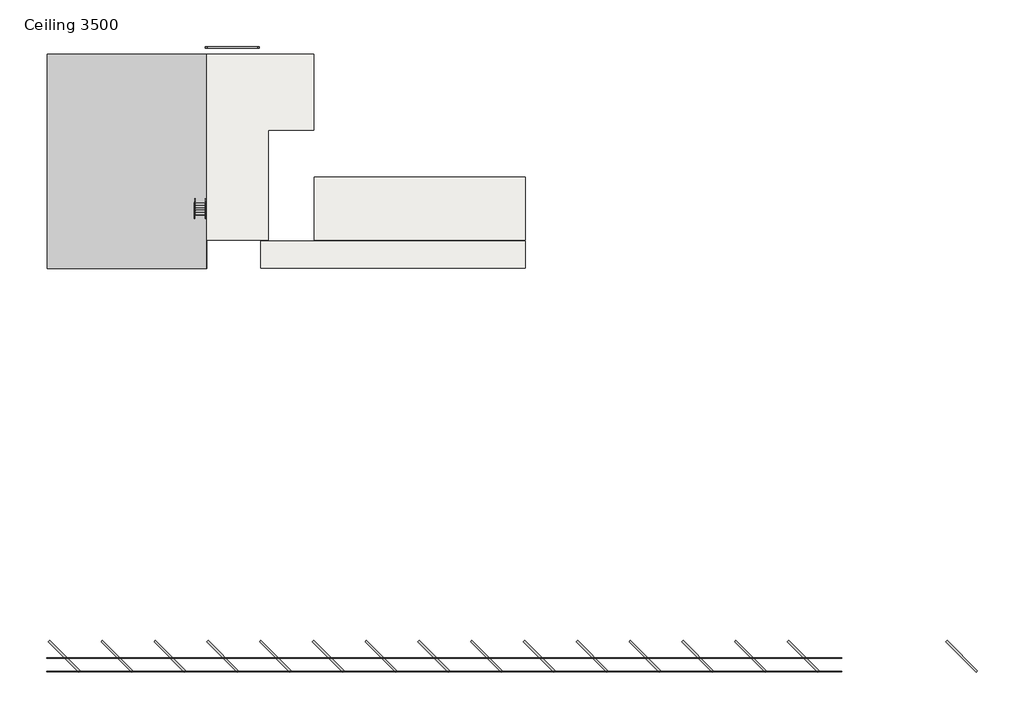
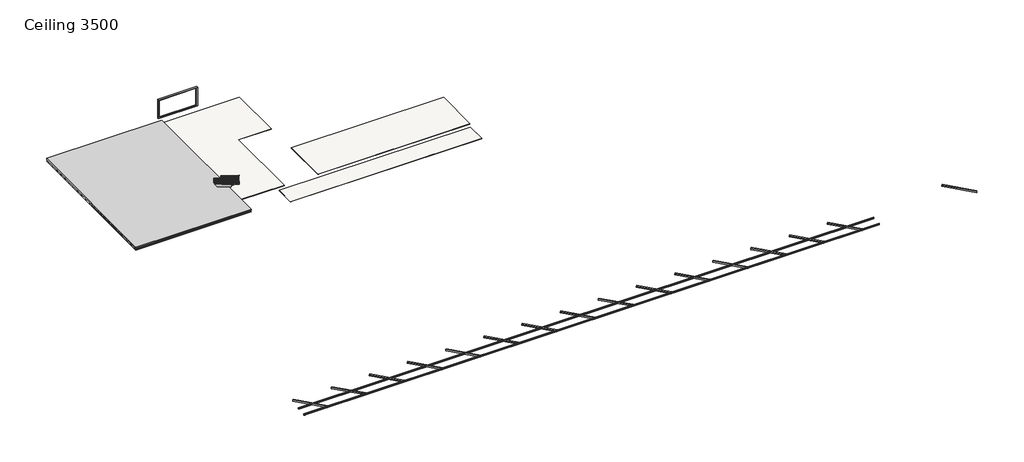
# One storey: 5 proxies, 2 members, 2 railings, 2 slabs, 1 stair flight.
"""IFC4 building model written with IfcOpenShell, lengths in millimetres."""

from ifc_helpers import new_model, si_unit, frame, origin, place, context, project, spatial, polyline, outline, extrude, transform, mapped, element, save
from components import generic_models_16_generic_models_16_e3d580b3, generic_models_22_generic_models_5_a0ad3e2a, generic_models_23_generic_models_23_01d6a3c4, generic_models_68_generic_models_68_cb7e43ab, stair_flight_50mm_tread_13mm_riser_d4d06f7f

model = new_model("IFC4")

# Units and contexts
model_context = context("Model", 3, world=origin())
ifc_project = project(units=[si_unit("LENGTHUNIT", "METRE", prefix="MILLI")], contexts=[model_context])

# Site, building, storey
site = spatial("IfcSite", under=ifc_project)
building = spatial("IfcBuilding", under=site)
storey = spatial("IfcBuildingStorey", under=building, Name="Ceiling 3500", Elevation=47670.0)

# Proxies
placement = place(None, origin())
generic_models_16_generic_models_16_shape = generic_models_16_generic_models_16_e3d580b3(model_context)
element("IfcBuildingElementProxy", 1, Name="Generic Models 16 : Generic Models 16", ObjectType="Generic Models 16 : Generic Models 16", at=placement, inside=storey, context=model_context, shape_type="MappedRepresentation", body=[
    mapped(generic_models_16_generic_models_16_shape, transform((0.0, 0.0, 0.0), x_axis=(1.0, 0.0, 0.0), y_axis=(0.0, 1.0, 0.0), z_axis=(0.0, 0.0, 1.0))),
])
generic_models_22_generic_models_5_shape = generic_models_22_generic_models_5_a0ad3e2a(model_context)
element("IfcBuildingElementProxy", 2, Name="Generic Models 22 : Generic Models 5", ObjectType="Generic Models 22 : Generic Models 5", at=placement, inside=storey, context=model_context, shape_type="MappedRepresentation", body=[
    mapped(generic_models_22_generic_models_5_shape, transform((0.0, 0.0, 0.0), x_axis=(1.0, 0.0, 0.0), y_axis=(0.0, 1.0, 0.0), z_axis=(0.0, 0.0, 1.0))),
])
generic_models_23_generic_models_23_shape = generic_models_23_generic_models_23_01d6a3c4(model_context)
element("IfcBuildingElementProxy", 3, Name="Generic Models 23 : Generic Models 23", ObjectType="Generic Models 23 : Generic Models 23", at=placement, inside=storey, context=model_context, shape_type="MappedRepresentation", body=[
    mapped(generic_models_23_generic_models_23_shape, transform((0.0, 0.0, 0.0), x_axis=(1.0, 0.0, 0.0), y_axis=(0.0, 1.0, 0.0), z_axis=(0.0, 0.0, 1.0))),
])
element("IfcBuildingElementProxy", 4, Name="Generic Models 29 : Generic Models 5", ObjectType="Generic Models 29 : Generic Models 5", at=placement, inside=storey, context=model_context, shape_type="MappedRepresentation", body=[
    mapped(generic_models_22_generic_models_5_shape, transform((0.0, 1537.9249012, 79.9186981), x_axis=(1.0, 0.0, 0.0), y_axis=(0.0, 1.0, 0.0), z_axis=(0.0, 0.0, 1.0))),
])
generic_models_68_generic_models_68_shape = generic_models_68_generic_models_68_cb7e43ab(model_context)
element("IfcBuildingElementProxy", 5, Name="Generic Models 68 : Generic Models 68", ObjectType="Generic Models 68 : Generic Models 68", at=placement, inside=storey, context=model_context, shape_type="MappedRepresentation", body=[
    mapped(generic_models_68_generic_models_68_shape, transform((0.0, 0.0, 0.0), x_axis=(1.0, 0.0, 0.0), y_axis=(0.0, 1.0, 0.0), z_axis=(0.0, 0.0, 1.0))),
])

# Members
element("IfcMember", 6, ObjectType="Stringer - 50mm Width", at=placement, inside=storey, context=model_context, shape_type="SweptSolid", body=[
    extrude(outline(polyline([(19967.4703267, 47906.4454932), (19967.4703267, 47670.0), (19589.8334915, 47670.0), (15107.4703267, 50450.7252967), (15107.4703267, 50921.4454932), (19967.4703267, 47906.4454932)])), frame((-117250.5917799, 0.0, 0.0), z_axis=(1.0, 0.0, 0.0), x_axis=(0.0, 1.0, 0.0)), (0.0, 0.0, 1.0), 50.0),
])
element("IfcMember", 7, ObjectType="Stringer - 50mm Width", at=placement, inside=storey, context=model_context, shape_type="SweptSolid", body=[
    extrude(outline(polyline([(19967.4703267, 47906.4454932), (19967.4703267, 47670.0), (19589.8334915, 47670.0), (15107.4703267, 50450.7252967), (15107.4703267, 50921.4454932), (19967.4703267, 47906.4454932)])), frame((-118500.5917799, 0.0, 0.0), z_axis=(1.0, 0.0, 0.0), x_axis=(0.0, 1.0, 0.0)), (0.0, 0.0, 1.0), 50.0),
])

# Railings
element("IfcRailing", 8, ObjectType="1100mm", at=placement, inside=storey, context=model_context, shape_type="SweptSolid", body=[
    extrude(outline(polyline([(19967.4703267, 48937.5), (19967.4703267, 48878.6599754), (15107.4703267, 51893.6599754), (15107.4703267, 51952.5), (19967.4703267, 48937.5)])), frame((-118450.1917799, 0.0, 0.0), z_axis=(1.0, 0.0, 0.0), x_axis=(0.0, 1.0, 0.0)), (0.0, 0.0, 1.0), 50.0),
    extrude(outline(polyline([(15187.4703267, 51844.0303458), (15187.4703267, 50685.0), (15162.4703267, 50685.0), (15162.4703267, 51859.5396051), (15187.4703267, 51844.0303458)])), frame((-118437.6917799, 0.0, 0.0), z_axis=(1.0, 0.0, 0.0), x_axis=(0.0, 1.0, 0.0)), (0.0, 0.0, 1.0), 25.0),
    extrude(outline(polyline([(15322.4703267, 51760.2803458), (15322.4703267, 50685.0), (15297.4703267, 50685.0), (15297.4703267, 51775.7896051), (15322.4703267, 51760.2803458)])), frame((-118437.6917799, 0.0, 0.0), z_axis=(1.0, 0.0, 0.0), x_axis=(0.0, 1.0, 0.0)), (0.0, 0.0, 1.0), 25.0),
    extrude(outline(polyline([(15457.4703267, 51676.5303458), (15457.4703267, 50517.5), (15432.4703267, 50517.5), (15432.4703267, 51692.0396051), (15457.4703267, 51676.5303458)])), frame((-118437.6917799, 0.0, 0.0), z_axis=(1.0, 0.0, 0.0), x_axis=(0.0, 1.0, 0.0)), (0.0, 0.0, 1.0), 25.0),
    extrude(outline(polyline([(15592.4703267, 51592.7803458), (15592.4703267, 50517.5), (15567.4703267, 50517.5), (15567.4703267, 51608.2896051), (15592.4703267, 51592.7803458)])), frame((-118437.6917799, 0.0, 0.0), z_axis=(1.0, 0.0, 0.0), x_axis=(0.0, 1.0, 0.0)), (0.0, 0.0, 1.0), 25.0),
    extrude(outline(polyline([(15727.4703267, 51509.0303458), (15727.4703267, 50350.0), (15702.4703267, 50350.0), (15702.4703267, 51524.5396051), (15727.4703267, 51509.0303458)])), frame((-118437.6917799, 0.0, 0.0), z_axis=(1.0, 0.0, 0.0), x_axis=(0.0, 1.0, 0.0)), (0.0, 0.0, 1.0), 25.0),
    extrude(outline(polyline([(15862.4703267, 51425.2803458), (15862.4703267, 50350.0), (15837.4703267, 50350.0), (15837.4703267, 51440.7896051), (15862.4703267, 51425.2803458)])), frame((-118437.6917799, 0.0, 0.0), z_axis=(1.0, 0.0, 0.0), x_axis=(0.0, 1.0, 0.0)), (0.0, 0.0, 1.0), 25.0),
    extrude(outline(polyline([(15997.4703267, 51341.5303458), (15997.4703267, 50182.5), (15972.4703267, 50182.5), (15972.4703267, 51357.0396051), (15997.4703267, 51341.5303458)])), frame((-118437.6917799, 0.0, 0.0), z_axis=(1.0, 0.0, 0.0), x_axis=(0.0, 1.0, 0.0)), (0.0, 0.0, 1.0), 25.0),
    extrude(outline(polyline([(16132.4703267, 51257.7803458), (16132.4703267, 50182.5), (16107.4703267, 50182.5), (16107.4703267, 51273.2896051), (16132.4703267, 51257.7803458)])), frame((-118437.6917799, 0.0, 0.0), z_axis=(1.0, 0.0, 0.0), x_axis=(0.0, 1.0, 0.0)), (0.0, 0.0, 1.0), 25.0),
    extrude(outline(polyline([(16267.4703267, 51174.0303458), (16267.4703267, 50015.0), (16242.4703267, 50015.0), (16242.4703267, 51189.5396051), (16267.4703267, 51174.0303458)])), frame((-118437.6917799, 0.0, 0.0), z_axis=(1.0, 0.0, 0.0), x_axis=(0.0, 1.0, 0.0)), (0.0, 0.0, 1.0), 25.0),
    extrude(outline(polyline([(16402.4703267, 51090.2803458), (16402.4703267, 50015.0), (16377.4703267, 50015.0), (16377.4703267, 51105.7896051), (16402.4703267, 51090.2803458)])), frame((-118437.6917799, 0.0, 0.0), z_axis=(1.0, 0.0, 0.0), x_axis=(0.0, 1.0, 0.0)), (0.0, 0.0, 1.0), 25.0),
    extrude(outline(polyline([(16537.4703267, 51006.5303458), (16537.4703267, 49847.5), (16512.4703267, 49847.5), (16512.4703267, 51022.0396051), (16537.4703267, 51006.5303458)])), frame((-118437.6917799, 0.0, 0.0), z_axis=(1.0, 0.0, 0.0), x_axis=(0.0, 1.0, 0.0)), (0.0, 0.0, 1.0), 25.0),
    extrude(outline(polyline([(16672.4703267, 50922.7803458), (16672.4703267, 49847.5), (16647.4703267, 49847.5), (16647.4703267, 50938.2896051), (16672.4703267, 50922.7803458)])), frame((-118437.6917799, 0.0, 0.0), z_axis=(1.0, 0.0, 0.0), x_axis=(0.0, 1.0, 0.0)), (0.0, 0.0, 1.0), 25.0),
    extrude(outline(polyline([(16807.4703267, 50839.0303458), (16807.4703267, 49680.0), (16782.4703267, 49680.0), (16782.4703267, 50854.5396051), (16807.4703267, 50839.0303458)])), frame((-118437.6917799, 0.0, 0.0), z_axis=(1.0, 0.0, 0.0), x_axis=(0.0, 1.0, 0.0)), (0.0, 0.0, 1.0), 25.0),
    extrude(outline(polyline([(16942.4703267, 50755.2803458), (16942.4703267, 49680.0), (16917.4703267, 49680.0), (16917.4703267, 50770.7896051), (16942.4703267, 50755.2803458)])), frame((-118437.6917799, 0.0, 0.0), z_axis=(1.0, 0.0, 0.0), x_axis=(0.0, 1.0, 0.0)), (0.0, 0.0, 1.0), 25.0),
    extrude(outline(polyline([(17077.4703267, 50671.5303458), (17077.4703267, 49512.5), (17052.4703267, 49512.5), (17052.4703267, 50687.0396051), (17077.4703267, 50671.5303458)])), frame((-118437.6917799, 0.0, 0.0), z_axis=(1.0, 0.0, 0.0), x_axis=(0.0, 1.0, 0.0)), (0.0, 0.0, 1.0), 25.0),
    extrude(outline(polyline([(17212.4703267, 50587.7803458), (17212.4703267, 49512.5), (17187.4703267, 49512.5), (17187.4703267, 50603.2896051), (17212.4703267, 50587.7803458)])), frame((-118437.6917799, 0.0, 0.0), z_axis=(1.0, 0.0, 0.0), x_axis=(0.0, 1.0, 0.0)), (0.0, 0.0, 1.0), 25.0),
    extrude(outline(polyline([(17347.4703267, 50504.0303458), (17347.4703267, 49345.0), (17322.4703267, 49345.0), (17322.4703267, 50519.5396051), (17347.4703267, 50504.0303458)])), frame((-118437.6917799, 0.0, 0.0), z_axis=(1.0, 0.0, 0.0), x_axis=(0.0, 1.0, 0.0)), (0.0, 0.0, 1.0), 25.0),
    extrude(outline(polyline([(17482.4703267, 50420.2803458), (17482.4703267, 49345.0), (17457.4703267, 49345.0), (17457.4703267, 50435.7896051), (17482.4703267, 50420.2803458)])), frame((-118437.6917799, 0.0, 0.0), z_axis=(1.0, 0.0, 0.0), x_axis=(0.0, 1.0, 0.0)), (0.0, 0.0, 1.0), 25.0),
    extrude(outline(polyline([(17617.4703267, 50336.5303458), (17617.4703267, 49177.5), (17592.4703267, 49177.5), (17592.4703267, 50352.0396051), (17617.4703267, 50336.5303458)])), frame((-118437.6917799, 0.0, 0.0), z_axis=(1.0, 0.0, 0.0), x_axis=(0.0, 1.0, 0.0)), (0.0, 0.0, 1.0), 25.0),
    extrude(outline(polyline([(17752.4703267, 50252.7803458), (17752.4703267, 49177.5), (17727.4703267, 49177.5), (17727.4703267, 50268.2896051), (17752.4703267, 50252.7803458)])), frame((-118437.6917799, 0.0, 0.0), z_axis=(1.0, 0.0, 0.0), x_axis=(0.0, 1.0, 0.0)), (0.0, 0.0, 1.0), 25.0),
    extrude(outline(polyline([(17887.4703267, 50169.0303458), (17887.4703267, 49010.0), (17862.4703267, 49010.0), (17862.4703267, 50184.5396051), (17887.4703267, 50169.0303458)])), frame((-118437.6917799, 0.0, 0.0), z_axis=(1.0, 0.0, 0.0), x_axis=(0.0, 1.0, 0.0)), (0.0, 0.0, 1.0), 25.0),
    extrude(outline(polyline([(18022.4703267, 50085.2803458), (18022.4703267, 49010.0), (17997.4703267, 49010.0), (17997.4703267, 50100.7896051), (18022.4703267, 50085.2803458)])), frame((-118437.6917799, 0.0, 0.0), z_axis=(1.0, 0.0, 0.0), x_axis=(0.0, 1.0, 0.0)), (0.0, 0.0, 1.0), 25.0),
    extrude(outline(polyline([(18157.4703267, 50001.5303458), (18157.4703267, 48842.5), (18132.4703267, 48842.5), (18132.4703267, 50017.0396051), (18157.4703267, 50001.5303458)])), frame((-118437.6917799, 0.0, 0.0), z_axis=(1.0, 0.0, 0.0), x_axis=(0.0, 1.0, 0.0)), (0.0, 0.0, 1.0), 25.0),
    extrude(outline(polyline([(18292.4703267, 49917.7803458), (18292.4703267, 48842.5), (18267.4703267, 48842.5), (18267.4703267, 49933.2896051), (18292.4703267, 49917.7803458)])), frame((-118437.6917799, 0.0, 0.0), z_axis=(1.0, 0.0, 0.0), x_axis=(0.0, 1.0, 0.0)), (0.0, 0.0, 1.0), 25.0),
    extrude(outline(polyline([(18427.4703267, 49834.0303458), (18427.4703267, 48675.0), (18402.4703267, 48675.0), (18402.4703267, 49849.5396051), (18427.4703267, 49834.0303458)])), frame((-118437.6917799, 0.0, 0.0), z_axis=(1.0, 0.0, 0.0), x_axis=(0.0, 1.0, 0.0)), (0.0, 0.0, 1.0), 25.0),
    extrude(outline(polyline([(18562.4703267, 49750.2803458), (18562.4703267, 48675.0), (18537.4703267, 48675.0), (18537.4703267, 49765.7896051), (18562.4703267, 49750.2803458)])), frame((-118437.6917799, 0.0, 0.0), z_axis=(1.0, 0.0, 0.0), x_axis=(0.0, 1.0, 0.0)), (0.0, 0.0, 1.0), 25.0),
    extrude(outline(polyline([(18697.4703267, 49666.5303458), (18697.4703267, 48507.5), (18672.4703267, 48507.5), (18672.4703267, 49682.0396051), (18697.4703267, 49666.5303458)])), frame((-118437.6917799, 0.0, 0.0), z_axis=(1.0, 0.0, 0.0), x_axis=(0.0, 1.0, 0.0)), (0.0, 0.0, 1.0), 25.0),
    extrude(outline(polyline([(18832.4703267, 49582.7803458), (18832.4703267, 48507.5), (18807.4703267, 48507.5), (18807.4703267, 49598.2896051), (18832.4703267, 49582.7803458)])), frame((-118437.6917799, 0.0, 0.0), z_axis=(1.0, 0.0, 0.0), x_axis=(0.0, 1.0, 0.0)), (0.0, 0.0, 1.0), 25.0),
    extrude(outline(polyline([(18967.4703267, 49499.0303458), (18967.4703267, 48340.0), (18942.4703267, 48340.0), (18942.4703267, 49514.5396051), (18967.4703267, 49499.0303458)])), frame((-118437.6917799, 0.0, 0.0), z_axis=(1.0, 0.0, 0.0), x_axis=(0.0, 1.0, 0.0)), (0.0, 0.0, 1.0), 25.0),
    extrude(outline(polyline([(19102.4703267, 49415.2803458), (19102.4703267, 48340.0), (19077.4703267, 48340.0), (19077.4703267, 49430.7896051), (19102.4703267, 49415.2803458)])), frame((-118437.6917799, 0.0, 0.0), z_axis=(1.0, 0.0, 0.0), x_axis=(0.0, 1.0, 0.0)), (0.0, 0.0, 1.0), 25.0),
    extrude(outline(polyline([(19237.4703267, 49331.5303458), (19237.4703267, 48172.5), (19212.4703267, 48172.5), (19212.4703267, 49347.0396051), (19237.4703267, 49331.5303458)])), frame((-118437.6917799, 0.0, 0.0), z_axis=(1.0, 0.0, 0.0), x_axis=(0.0, 1.0, 0.0)), (0.0, 0.0, 1.0), 25.0),
    extrude(outline(polyline([(19372.4703267, 49247.7803458), (19372.4703267, 48172.5), (19347.4703267, 48172.5), (19347.4703267, 49263.2896051), (19372.4703267, 49247.7803458)])), frame((-118437.6917799, 0.0, 0.0), z_axis=(1.0, 0.0, 0.0), x_axis=(0.0, 1.0, 0.0)), (0.0, 0.0, 1.0), 25.0),
    extrude(outline(polyline([(19507.4703267, 49164.0303458), (19507.4703267, 48005.0), (19482.4703267, 48005.0), (19482.4703267, 49179.5396051), (19507.4703267, 49164.0303458)])), frame((-118437.6917799, 0.0, 0.0), z_axis=(1.0, 0.0, 0.0), x_axis=(0.0, 1.0, 0.0)), (0.0, 0.0, 1.0), 25.0),
    extrude(outline(polyline([(19642.4703267, 49080.2803458), (19642.4703267, 48005.0), (19617.4703267, 48005.0), (19617.4703267, 49095.7896051), (19642.4703267, 49080.2803458)])), frame((-118437.6917799, 0.0, 0.0), z_axis=(1.0, 0.0, 0.0), x_axis=(0.0, 1.0, 0.0)), (0.0, 0.0, 1.0), 25.0),
    extrude(outline(polyline([(19777.4703267, 48996.5303458), (19777.4703267, 47837.5), (19752.4703267, 47837.5), (19752.4703267, 49012.0396051), (19777.4703267, 48996.5303458)])), frame((-118437.6917799, 0.0, 0.0), z_axis=(1.0, 0.0, 0.0), x_axis=(0.0, 1.0, 0.0)), (0.0, 0.0, 1.0), 25.0),
    extrude(outline(polyline([(19912.4703267, 48912.7803458), (19912.4703267, 47837.5), (19887.4703267, 47837.5), (19887.4703267, 48928.2896051), (19912.4703267, 48912.7803458)])), frame((-118437.6917799, 0.0, 0.0), z_axis=(1.0, 0.0, 0.0), x_axis=(0.0, 1.0, 0.0)), (0.0, 0.0, 1.0), 25.0),
    extrude(outline(polyline([(15132.4703267, 51878.1507162), (15132.4703267, 50685.0), (15107.4703267, 50685.0), (15107.4703267, 51893.6599754), (15132.4703267, 51878.1507162)])), frame((-118437.6917799, 0.0, 0.0), z_axis=(1.0, 0.0, 0.0), x_axis=(0.0, 1.0, 0.0)), (0.0, 0.0, 1.0), 25.0),
    extrude(outline(polyline([(19967.4703267, 48878.6599754), (19967.4703267, 47837.5), (19942.4703267, 47837.5), (19942.4703267, 48894.1692347), (19967.4703267, 48878.6599754)])), frame((-118437.6917799, 0.0, 0.0), z_axis=(1.0, 0.0, 0.0), x_axis=(0.0, 1.0, 0.0)), (0.0, 0.0, 1.0), 25.0),
])
element("IfcRailing", 9, ObjectType="1100mm", at=placement, inside=storey, context=model_context, shape_type="SweptSolid", body=[
    extrude(outline(polyline([(19967.4703267, 48937.5), (19967.4703267, 48878.6599754), (15107.4703267, 51893.6599754), (15107.4703267, 51952.5), (19967.4703267, 48937.5)])), frame((-117300.9917799, 0.0, 0.0), z_axis=(1.0, 0.0, 0.0), x_axis=(0.0, 1.0, 0.0)), (0.0, 0.0, 1.0), 50.0),
    extrude(outline(polyline([(15187.4703267, 50685.0), (15162.4703267, 50685.0), (15162.4703267, 51859.5396051), (15187.4703267, 51844.0303458), (15187.4703267, 50685.0)])), frame((-117288.4917799, 0.0, 0.0), z_axis=(1.0, 0.0, 0.0), x_axis=(0.0, 1.0, 0.0)), (0.0, 0.0, 1.0), 25.0),
    extrude(outline(polyline([(15322.4703267, 50685.0), (15297.4703267, 50685.0), (15297.4703267, 51775.7896051), (15322.4703267, 51760.2803458), (15322.4703267, 50685.0)])), frame((-117288.4917799, 0.0, 0.0), z_axis=(1.0, 0.0, 0.0), x_axis=(0.0, 1.0, 0.0)), (0.0, 0.0, 1.0), 25.0),
    extrude(outline(polyline([(15457.4703267, 50517.5), (15432.4703267, 50517.5), (15432.4703267, 51692.0396051), (15457.4703267, 51676.5303458), (15457.4703267, 50517.5)])), frame((-117288.4917799, 0.0, 0.0), z_axis=(1.0, 0.0, 0.0), x_axis=(0.0, 1.0, 0.0)), (0.0, 0.0, 1.0), 25.0),
    extrude(outline(polyline([(15592.4703267, 50517.5), (15567.4703267, 50517.5), (15567.4703267, 51608.2896051), (15592.4703267, 51592.7803458), (15592.4703267, 50517.5)])), frame((-117288.4917799, 0.0, 0.0), z_axis=(1.0, 0.0, 0.0), x_axis=(0.0, 1.0, 0.0)), (0.0, 0.0, 1.0), 25.0),
    extrude(outline(polyline([(15727.4703267, 50350.0), (15702.4703267, 50350.0), (15702.4703267, 51524.5396051), (15727.4703267, 51509.0303458), (15727.4703267, 50350.0)])), frame((-117288.4917799, 0.0, 0.0), z_axis=(1.0, 0.0, 0.0), x_axis=(0.0, 1.0, 0.0)), (0.0, 0.0, 1.0), 25.0),
    extrude(outline(polyline([(15862.4703267, 50350.0), (15837.4703267, 50350.0), (15837.4703267, 51440.7896051), (15862.4703267, 51425.2803458), (15862.4703267, 50350.0)])), frame((-117288.4917799, 0.0, 0.0), z_axis=(1.0, 0.0, 0.0), x_axis=(0.0, 1.0, 0.0)), (0.0, 0.0, 1.0), 25.0),
    extrude(outline(polyline([(15997.4703267, 50182.5), (15972.4703267, 50182.5), (15972.4703267, 51357.0396051), (15997.4703267, 51341.5303458), (15997.4703267, 50182.5)])), frame((-117288.4917799, 0.0, 0.0), z_axis=(1.0, 0.0, 0.0), x_axis=(0.0, 1.0, 0.0)), (0.0, 0.0, 1.0), 25.0),
    extrude(outline(polyline([(16132.4703267, 50182.5), (16107.4703267, 50182.5), (16107.4703267, 51273.2896051), (16132.4703267, 51257.7803458), (16132.4703267, 50182.5)])), frame((-117288.4917799, 0.0, 0.0), z_axis=(1.0, 0.0, 0.0), x_axis=(0.0, 1.0, 0.0)), (0.0, 0.0, 1.0), 25.0),
    extrude(outline(polyline([(16267.4703267, 50015.0), (16242.4703267, 50015.0), (16242.4703267, 51189.5396051), (16267.4703267, 51174.0303458), (16267.4703267, 50015.0)])), frame((-117288.4917799, 0.0, 0.0), z_axis=(1.0, 0.0, 0.0), x_axis=(0.0, 1.0, 0.0)), (0.0, 0.0, 1.0), 25.0),
    extrude(outline(polyline([(16402.4703267, 50015.0), (16377.4703267, 50015.0), (16377.4703267, 51105.7896051), (16402.4703267, 51090.2803458), (16402.4703267, 50015.0)])), frame((-117288.4917799, 0.0, 0.0), z_axis=(1.0, 0.0, 0.0), x_axis=(0.0, 1.0, 0.0)), (0.0, 0.0, 1.0), 25.0),
    extrude(outline(polyline([(16537.4703267, 49847.5), (16512.4703267, 49847.5), (16512.4703267, 51022.0396051), (16537.4703267, 51006.5303458), (16537.4703267, 49847.5)])), frame((-117288.4917799, 0.0, 0.0), z_axis=(1.0, 0.0, 0.0), x_axis=(0.0, 1.0, 0.0)), (0.0, 0.0, 1.0), 25.0),
    extrude(outline(polyline([(16672.4703267, 49847.5), (16647.4703267, 49847.5), (16647.4703267, 50938.2896051), (16672.4703267, 50922.7803458), (16672.4703267, 49847.5)])), frame((-117288.4917799, 0.0, 0.0), z_axis=(1.0, 0.0, 0.0), x_axis=(0.0, 1.0, 0.0)), (0.0, 0.0, 1.0), 25.0),
    extrude(outline(polyline([(16807.4703267, 49680.0), (16782.4703267, 49680.0), (16782.4703267, 50854.5396051), (16807.4703267, 50839.0303458), (16807.4703267, 49680.0)])), frame((-117288.4917799, 0.0, 0.0), z_axis=(1.0, 0.0, 0.0), x_axis=(0.0, 1.0, 0.0)), (0.0, 0.0, 1.0), 25.0),
    extrude(outline(polyline([(16942.4703267, 49680.0), (16917.4703267, 49680.0), (16917.4703267, 50770.7896051), (16942.4703267, 50755.2803458), (16942.4703267, 49680.0)])), frame((-117288.4917799, 0.0, 0.0), z_axis=(1.0, 0.0, 0.0), x_axis=(0.0, 1.0, 0.0)), (0.0, 0.0, 1.0), 25.0),
    extrude(outline(polyline([(17077.4703267, 49512.5), (17052.4703267, 49512.5), (17052.4703267, 50687.0396051), (17077.4703267, 50671.5303458), (17077.4703267, 49512.5)])), frame((-117288.4917799, 0.0, 0.0), z_axis=(1.0, 0.0, 0.0), x_axis=(0.0, 1.0, 0.0)), (0.0, 0.0, 1.0), 25.0),
    extrude(outline(polyline([(17212.4703267, 49512.5), (17187.4703267, 49512.5), (17187.4703267, 50603.2896051), (17212.4703267, 50587.7803458), (17212.4703267, 49512.5)])), frame((-117288.4917799, 0.0, 0.0), z_axis=(1.0, 0.0, 0.0), x_axis=(0.0, 1.0, 0.0)), (0.0, 0.0, 1.0), 25.0),
    extrude(outline(polyline([(17347.4703267, 49345.0), (17322.4703267, 49345.0), (17322.4703267, 50519.5396051), (17347.4703267, 50504.0303458), (17347.4703267, 49345.0)])), frame((-117288.4917799, 0.0, 0.0), z_axis=(1.0, 0.0, 0.0), x_axis=(0.0, 1.0, 0.0)), (0.0, 0.0, 1.0), 25.0),
    extrude(outline(polyline([(17482.4703267, 49345.0), (17457.4703267, 49345.0), (17457.4703267, 50435.7896051), (17482.4703267, 50420.2803458), (17482.4703267, 49345.0)])), frame((-117288.4917799, 0.0, 0.0), z_axis=(1.0, 0.0, 0.0), x_axis=(0.0, 1.0, 0.0)), (0.0, 0.0, 1.0), 25.0),
    extrude(outline(polyline([(17617.4703267, 49177.5), (17592.4703267, 49177.5), (17592.4703267, 50352.0396051), (17617.4703267, 50336.5303458), (17617.4703267, 49177.5)])), frame((-117288.4917799, 0.0, 0.0), z_axis=(1.0, 0.0, 0.0), x_axis=(0.0, 1.0, 0.0)), (0.0, 0.0, 1.0), 25.0),
    extrude(outline(polyline([(17752.4703267, 49177.5), (17727.4703267, 49177.5), (17727.4703267, 50268.2896051), (17752.4703267, 50252.7803458), (17752.4703267, 49177.5)])), frame((-117288.4917799, 0.0, 0.0), z_axis=(1.0, 0.0, 0.0), x_axis=(0.0, 1.0, 0.0)), (0.0, 0.0, 1.0), 25.0),
    extrude(outline(polyline([(17887.4703267, 49010.0), (17862.4703267, 49010.0), (17862.4703267, 50184.5396051), (17887.4703267, 50169.0303458), (17887.4703267, 49010.0)])), frame((-117288.4917799, 0.0, 0.0), z_axis=(1.0, 0.0, 0.0), x_axis=(0.0, 1.0, 0.0)), (0.0, 0.0, 1.0), 25.0),
    extrude(outline(polyline([(18022.4703267, 49010.0), (17997.4703267, 49010.0), (17997.4703267, 50100.7896051), (18022.4703267, 50085.2803458), (18022.4703267, 49010.0)])), frame((-117288.4917799, 0.0, 0.0), z_axis=(1.0, 0.0, 0.0), x_axis=(0.0, 1.0, 0.0)), (0.0, 0.0, 1.0), 25.0),
    extrude(outline(polyline([(18157.4703267, 48842.5), (18132.4703267, 48842.5), (18132.4703267, 50017.0396051), (18157.4703267, 50001.5303458), (18157.4703267, 48842.5)])), frame((-117288.4917799, 0.0, 0.0), z_axis=(1.0, 0.0, 0.0), x_axis=(0.0, 1.0, 0.0)), (0.0, 0.0, 1.0), 25.0),
    extrude(outline(polyline([(18292.4703267, 48842.5), (18267.4703267, 48842.5), (18267.4703267, 49933.2896051), (18292.4703267, 49917.7803458), (18292.4703267, 48842.5)])), frame((-117288.4917799, 0.0, 0.0), z_axis=(1.0, 0.0, 0.0), x_axis=(0.0, 1.0, 0.0)), (0.0, 0.0, 1.0), 25.0),
    extrude(outline(polyline([(18427.4703267, 48675.0), (18402.4703267, 48675.0), (18402.4703267, 49849.5396051), (18427.4703267, 49834.0303458), (18427.4703267, 48675.0)])), frame((-117288.4917799, 0.0, 0.0), z_axis=(1.0, 0.0, 0.0), x_axis=(0.0, 1.0, 0.0)), (0.0, 0.0, 1.0), 25.0),
    extrude(outline(polyline([(18562.4703267, 48675.0), (18537.4703267, 48675.0), (18537.4703267, 49765.7896051), (18562.4703267, 49750.2803458), (18562.4703267, 48675.0)])), frame((-117288.4917799, 0.0, 0.0), z_axis=(1.0, 0.0, 0.0), x_axis=(0.0, 1.0, 0.0)), (0.0, 0.0, 1.0), 25.0),
    extrude(outline(polyline([(18697.4703267, 48507.5), (18672.4703267, 48507.5), (18672.4703267, 49682.0396051), (18697.4703267, 49666.5303458), (18697.4703267, 48507.5)])), frame((-117288.4917799, 0.0, 0.0), z_axis=(1.0, 0.0, 0.0), x_axis=(0.0, 1.0, 0.0)), (0.0, 0.0, 1.0), 25.0),
    extrude(outline(polyline([(18832.4703267, 48507.5), (18807.4703267, 48507.5), (18807.4703267, 49598.2896051), (18832.4703267, 49582.7803458), (18832.4703267, 48507.5)])), frame((-117288.4917799, 0.0, 0.0), z_axis=(1.0, 0.0, 0.0), x_axis=(0.0, 1.0, 0.0)), (0.0, 0.0, 1.0), 25.0),
    extrude(outline(polyline([(18967.4703267, 48340.0), (18942.4703267, 48340.0), (18942.4703267, 49514.5396051), (18967.4703267, 49499.0303458), (18967.4703267, 48340.0)])), frame((-117288.4917799, 0.0, 0.0), z_axis=(1.0, 0.0, 0.0), x_axis=(0.0, 1.0, 0.0)), (0.0, 0.0, 1.0), 25.0),
    extrude(outline(polyline([(19102.4703267, 48340.0), (19077.4703267, 48340.0), (19077.4703267, 49430.7896051), (19102.4703267, 49415.2803458), (19102.4703267, 48340.0)])), frame((-117288.4917799, 0.0, 0.0), z_axis=(1.0, 0.0, 0.0), x_axis=(0.0, 1.0, 0.0)), (0.0, 0.0, 1.0), 25.0),
    extrude(outline(polyline([(19237.4703267, 48172.5), (19212.4703267, 48172.5), (19212.4703267, 49347.0396051), (19237.4703267, 49331.5303458), (19237.4703267, 48172.5)])), frame((-117288.4917799, 0.0, 0.0), z_axis=(1.0, 0.0, 0.0), x_axis=(0.0, 1.0, 0.0)), (0.0, 0.0, 1.0), 25.0),
    extrude(outline(polyline([(19372.4703267, 48172.5), (19347.4703267, 48172.5), (19347.4703267, 49263.2896051), (19372.4703267, 49247.7803458), (19372.4703267, 48172.5)])), frame((-117288.4917799, 0.0, 0.0), z_axis=(1.0, 0.0, 0.0), x_axis=(0.0, 1.0, 0.0)), (0.0, 0.0, 1.0), 25.0),
    extrude(outline(polyline([(19507.4703267, 48005.0), (19482.4703267, 48005.0), (19482.4703267, 49179.5396051), (19507.4703267, 49164.0303458), (19507.4703267, 48005.0)])), frame((-117288.4917799, 0.0, 0.0), z_axis=(1.0, 0.0, 0.0), x_axis=(0.0, 1.0, 0.0)), (0.0, 0.0, 1.0), 25.0),
    extrude(outline(polyline([(19642.4703267, 48005.0), (19617.4703267, 48005.0), (19617.4703267, 49095.7896051), (19642.4703267, 49080.2803458), (19642.4703267, 48005.0)])), frame((-117288.4917799, 0.0, 0.0), z_axis=(1.0, 0.0, 0.0), x_axis=(0.0, 1.0, 0.0)), (0.0, 0.0, 1.0), 25.0),
    extrude(outline(polyline([(19777.4703267, 47837.5), (19752.4703267, 47837.5), (19752.4703267, 49012.0396051), (19777.4703267, 48996.5303458), (19777.4703267, 47837.5)])), frame((-117288.4917799, 0.0, 0.0), z_axis=(1.0, 0.0, 0.0), x_axis=(0.0, 1.0, 0.0)), (0.0, 0.0, 1.0), 25.0),
    extrude(outline(polyline([(19912.4703267, 47837.5), (19887.4703267, 47837.5), (19887.4703267, 48928.2896051), (19912.4703267, 48912.7803458), (19912.4703267, 47837.5)])), frame((-117288.4917799, 0.0, 0.0), z_axis=(1.0, 0.0, 0.0), x_axis=(0.0, 1.0, 0.0)), (0.0, 0.0, 1.0), 25.0),
    extrude(outline(polyline([(15132.4703267, 50685.0), (15107.4703267, 50685.0), (15107.4703267, 51893.6599754), (15132.4703267, 51878.1507162), (15132.4703267, 50685.0)])), frame((-117288.4917799, 0.0, 0.0), z_axis=(1.0, 0.0, 0.0), x_axis=(0.0, 1.0, 0.0)), (0.0, 0.0, 1.0), 25.0),
    extrude(outline(polyline([(19967.4703267, 47837.5), (19942.4703267, 47837.5), (19942.4703267, 48894.1692347), (19967.4703267, 48878.6599754), (19967.4703267, 47837.5)])), frame((-117288.4917799, 0.0, 0.0), z_axis=(1.0, 0.0, 0.0), x_axis=(0.0, 1.0, 0.0)), (0.0, 0.0, 1.0), 25.0),
])

# Slabs
element("IfcSlab", 10, ObjectType="isopanel ceiling 50", at=placement, inside=storey, context=model_context, shape_type="SweptSolid", body=[
    extrude(outline(polyline([(-110958.9372768, 12047.101051), (-110958.9372768, 15107.4703267), (-80897.1407976, 15107.4703267), (-80897.1407976, 12047.101051), (-110958.9372768, 12047.101051)])), frame((0.0, 0.0, 47170.0), z_axis=(0.0, 0.0, 1.0), x_axis=(1.0, 0.0, 0.0)), (0.0, 0.0, 1.0), 50.0),
])
element("IfcSlab", 11, ObjectType="isopanel ceiling 50", at=placement, inside=storey, context=model_context, shape_type="SweptSolid", body=[
    extrude(outline(polyline([(-104847.9372768, 15207.4703267), (-104847.9372768, 22407.4703267), (-80897.1407976, 22407.4703267), (-80897.1407976, 15207.4703267), (-104847.9372768, 15207.4703267)])), frame((0.0, 0.0, 47670.0), z_axis=(0.0, 0.0, 1.0), x_axis=(1.0, 0.0, 0.0)), (0.0, 0.0, 1.0), 50.0),
    extrude(outline(polyline([(-117100.5917799, 15207.4703267), (-117100.5917799, 12008.2777512), (-135247.9372768, 12008.2777512), (-135247.9372768, 36355.969902), (-104947.9372768, 36355.969902), (-104947.9372768, 27708.4151802), (-110127.9372768, 27708.4151802), (-110127.9372768, 15207.4703267), (-117100.5917799, 15207.4703267)]), holes=[polyline([(-129047.9372768, 20207.4925063), (-130047.9372768, 20207.4925063), (-130047.9372768, 18055.9642848), (-129047.9372768, 18055.9642848), (-129047.9372768, 20207.4925063)])]), frame((0.0, 0.0, 47670.0), z_axis=(0.0, 0.0, 1.0), x_axis=(1.0, 0.0, 0.0)), (0.0, 0.0, 1.0), 50.0),
])

# Stair flight
stair_flight_50mm_tread_13mm_riser_shape = stair_flight_50mm_tread_13mm_riser_d4d06f7f(model_context)
element("IfcStairFlight", 12, ObjectType="50mm Tread 13mm Riser", at=placement, inside=storey, context=model_context, shape_type="MappedRepresentation", body=[
    mapped(stair_flight_50mm_tread_13mm_riser_shape, transform((0.0, 0.0, 0.0), x_axis=(1.0, 0.0, 0.0), y_axis=(0.0, 1.0, 0.0), z_axis=(0.0, 0.0, 1.0))),
])

save(model, "model.ifc")
